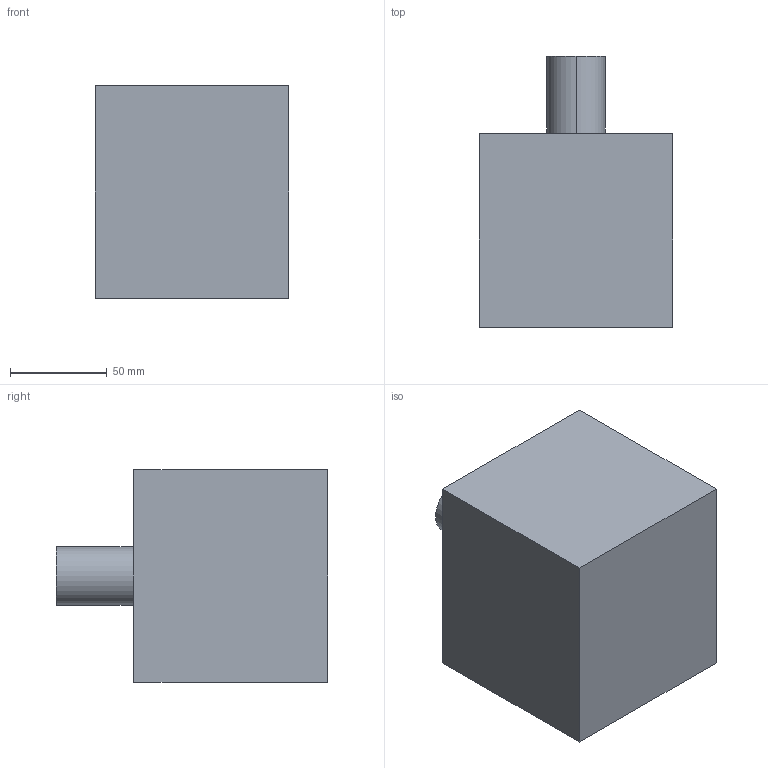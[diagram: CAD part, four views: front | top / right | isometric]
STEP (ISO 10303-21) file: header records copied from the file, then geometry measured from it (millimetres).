
FILE_DESCRIPTION (( 'STEP AP203' ), '1' );
FILE_NAME ('Cube avec Tore inclu dedans.STEP', '2007-02-07T10:22:00', ( ' ' ), ( ' ' ), 'SwSTEP 2.0', 'SolidWorks 2007', '' );
FILE_SCHEMA (( 'CONFIG_CONTROL_DESIGN' ));
Length unit declared in the file: millimetre
Products named in the file (4): Cube.vide(recherche); Cube avec Tore inclu dedans; Tore(recherche); Tube(recherche)
Assembly tree (3 placements, depth 2):
  Cube avec Tore inclu dedans
    Tore(recherche)
    Cube.vide(recherche)
    Tube(recherche)
Bounding box: 100 x 140 x 110 mm (x, y, z)
Volume: 301422.8 mm3; surface area: 129751.1 mm2
Topology: 3 solids, 3 shells, 24 faces, 50 edges, 32 vertices
Faces by surface type: plane 14, cylinder 6, bspline 4
Entity records: 2680 total; most frequent: CARTESIAN_POINT 1772, DIRECTION 106, ORIENTED_EDGE 100, EDGE_CURVE 50, AXIS2_PLACEMENT_3D 38, PERSON_AND_ORGANIZATION 35, VERTEX_POINT 32, VECTOR 30
